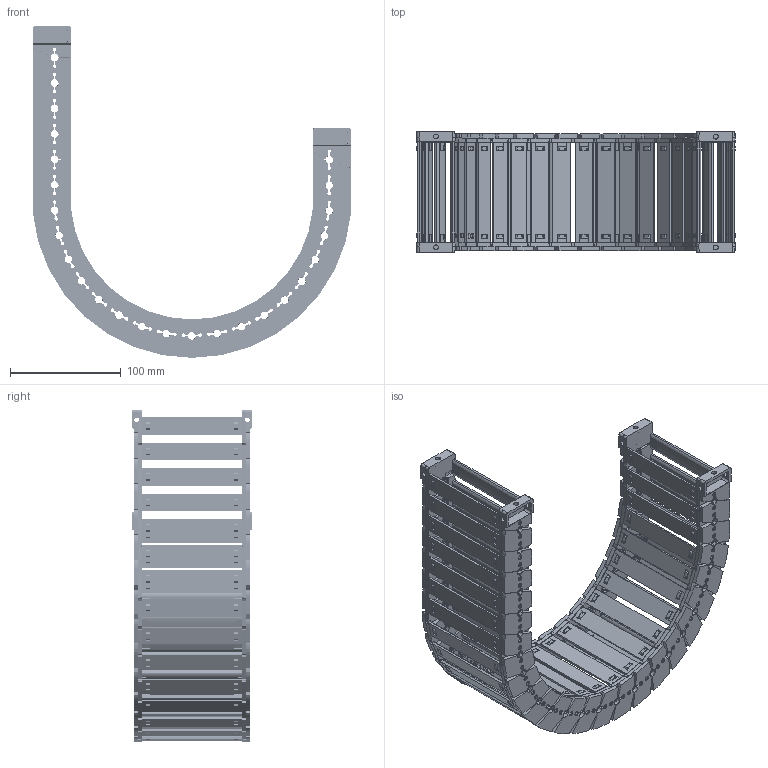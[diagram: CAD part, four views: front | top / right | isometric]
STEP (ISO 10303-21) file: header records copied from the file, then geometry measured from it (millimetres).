
FILE_DESCRIPTION((''),'2;1');
FILE_NAME('JY-28X90-R125_ASM','2026-03-25T20:05:52',('admin'),(''),'CREO PARAMETRIC BY PTC INC, 2021023','CREO PARAMETRIC BY PTC INC, 2021023','');
FILE_SCHEMA(('CONFIG_CONTROL_DESIGN'));
Length unit declared in the file: millimetre
Products named in the file (11): 28XL-L; 25-35XL-YP; 28XL-R; ASM0001_ASM; 28-LTT-A-L; 28-LTT-A-R; 28XL-LTT-A_ASM; 28-LTT-B-L; 28-LTT-B-R; 28XL-LTT-B_ASM; JY-28X90-R125_ASM
Assembly tree (38 placements, depth 3):
  JY-28X90-R125_ASM
    ASM0001_ASM  x24
      28XL-L
      25-35XL-YP
      28XL-R
    28XL-LTT-A_ASM
      28-LTT-A-L
      25-35XL-YP  x2
      28-LTT-A-R
    28XL-LTT-B_ASM
      28-LTT-B-L
      25-35XL-YP  x2
      28-LTT-B-R
Bounding box: 287.57 x 109 x 299.79 mm (x, y, z)
Volume: 503445.9 mm3; surface area: 362504.4 mm2
Topology: 104 solids, 104 shells, 8438 faces, 25084 edges, 16750 vertices
Faces by surface type: plane 5532, cone 1522, cylinder 1210, bspline 174
Entity records: 29143 total; most frequent: CARTESIAN_POINT 9496, ORIENTED_EDGE 4352, DIRECTION 3667, EDGE_CURVE 2176, VERTEX_POINT 1454, VECTOR 1365, LINE 1365, AXIS2_PLACEMENT_3D 1151
